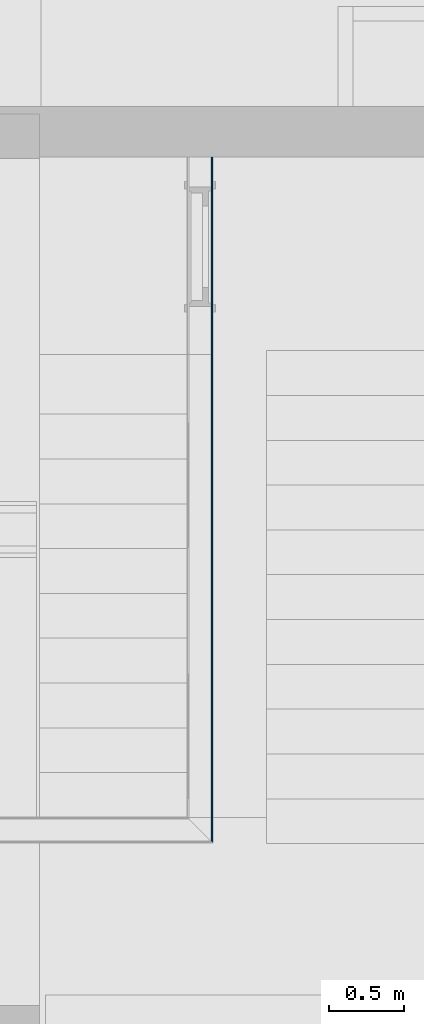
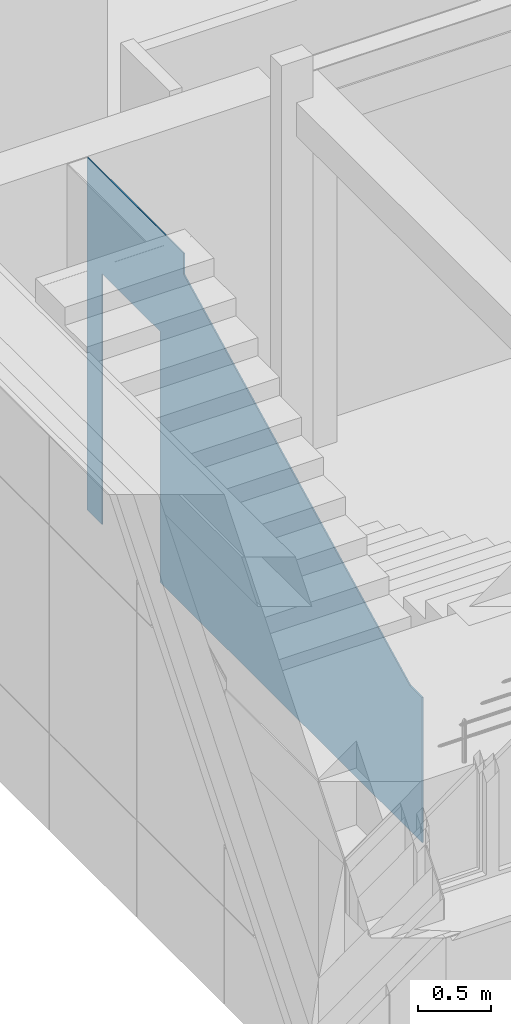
# One storey, part 109 of 418: 1 building element part, 1 opening, 1 element without a shape of its own.
"""IFC2X3 building model written with IfcOpenShell, lengths in millimetres."""

from ifc_helpers import new_model, entity, si_unit, converted_unit, derived_unit, money_unit, direction, frame, origin_with_axes, origin_2d_with_axis, place, context, subcontext, project, spatial, polyline, rectangle, outline, extrude, boolean, faceted_brep, material, type_object, element, aggregate, save


model = new_model("IFC2X3")

# Units and contexts
model_context = context("Model", 3, precision=0.01, world=origin_with_axes(), true_north=direction((0.0, 1.0)))
body_context = subcontext(model_context, "Body", "Model", "MODEL_VIEW")
ifc_project = project(units=[si_unit("LENGTHUNIT", "METRE", prefix="MILLI"), si_unit("AREAUNIT", "SQUARE_METRE"), si_unit("VOLUMEUNIT", "CUBIC_METRE"), converted_unit("PLANEANGLEUNIT", "DEGREE", entity("IfcPlaneAngleMeasure", 0.0174532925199), si_unit("PLANEANGLEUNIT", "RADIAN"), dimensions=[0, 0, 0, 0, 0, 0, 0]), si_unit("SOLIDANGLEUNIT", "STERADIAN"), money_unit("EUR"), converted_unit("TIMEUNIT", "Year", entity("IfcTimeMeasure", 31556926.0), si_unit("TIMEUNIT", "SECOND"), dimensions=[0, 0, 1, 0, 0, 0, 0]), si_unit("MASSUNIT", "GRAM", prefix="KILO"), si_unit("THERMODYNAMICTEMPERATUREUNIT", "DEGREE_CELSIUS"), si_unit("LUMINOUSINTENSITYUNIT", "LUMEN"), si_unit("ENERGYUNIT", "JOULE", prefix="MEGA"), derived_unit("THERMALCONDUCTANCEUNIT", [(si_unit("POWERUNIT", "WATT"), 1), (si_unit("LENGTHUNIT", "METRE"), -1), (si_unit("THERMODYNAMICTEMPERATUREUNIT", "KELVIN"), -1)]), derived_unit("SPECIFICHEATCAPACITYUNIT", [(si_unit("ENERGYUNIT", "JOULE"), 1), (si_unit("MASSUNIT", "GRAM", prefix="KILO"), -1), (si_unit("THERMODYNAMICTEMPERATUREUNIT", "KELVIN"), -1)]), derived_unit("MASSDENSITYUNIT", [(si_unit("MASSUNIT", "GRAM", prefix="KILO"), 1), (si_unit("VOLUMEUNIT", "CUBIC_METRE"), -1)])], contexts=[model_context])

# Site, building, storey
site_placement = place(None, origin_with_axes())
site = spatial("IfcSite", under=ifc_project, at=site_placement, Name="Paldiski mnt 245/1, Tallinn, Harjumaa", CompositionType="COMPLEX")
building_placement = place(site_placement, origin_with_axes())
building = spatial("IfcBuilding", under=site, at=building_placement, Name="RKAS Hoone üldnimetus (kasutust iseloomustav) -> IFC Project Manager -> SOLIBRI", CompositionType="ELEMENT")
storey_placement = place(building_placement, origin_with_axes())
storey = spatial("IfcBuildingStorey", under=building, at=storey_placement, Name="Esimene korrus", CompositionType="ELEMENT", Elevation=0.0)

# Wall, opening, building element part
wall_type = type_object("IfcWallType", Name="SS-04 170", PredefinedType="NOTDEFINED")
wall_placement = place(storey_placement, frame((-46130.0, -6130.08408706, 0.0), z_axis=(0.0, 0.0, 1.0), x_axis=(0.0, -1.0, 0.0)))
wall = element("IfcWall", 1, at=wall_placement, inside=storey, type_object=wall_type, Name="SS-04")
opening_placement = place(wall_placement, frame((940.0, 0.0, 0.0), z_axis=(0.0, 0.0, 1.0), x_axis=(1.0, 0.0, 0.0)))
element("IfcOpeningElement", 2, at=opening_placement, cuts=wall, Name="TSU-08v", context=body_context, shape_type="SweptSolid", body=[
    extrude(rectangle(XDim=800.0, YDim=2100.0, at=origin_2d_with_axis()), frame((0.0, -145.0, 1050.0), z_axis=(0.0, 1.0, 0.0), x_axis=(-1.0, 0.0, 0.0)), (0.0, 0.0, 1.0), 315.0),
    extrude(rectangle(XDim=800.0, YDim=2100.0, at=origin_2d_with_axis()), frame((0.0, -145.0, 1050.0), z_axis=(0.0, -1.0, 0.0), x_axis=(-1.0, 0.0, 0.0)), (0.0, 0.0, 1.0), 195.0),
    extrude(rectangle(XDim=874.0, YDim=2137.0, at=origin_2d_with_axis()), frame((0.0, 0.0, 1068.5), z_axis=(0.0, 1.0, 0.0), x_axis=(-1.0, 0.0, 0.0)), (0.0, 0.0, 1.0), 195.0),
    extrude(rectangle(XDim=874.0, YDim=2137.0, at=origin_2d_with_axis()), frame((0.0, -170.0, 1068.5), z_axis=(0.0, -1.0, 0.0), x_axis=(-1.0, 0.0, 0.0)), (0.0, 0.0, 1.0), 195.0),
])
ifc_material = material(Name="Krohv")
building_element_part_placement = place(wall_placement, origin_with_axes())
building_element_part = element("IfcBuildingElementPart", 3, at=building_element_part_placement, material=ifc_material, Name="Krohv", context=body_context, shape_type="CSG", body=[
    boolean("DIFFERENCE", boolean("DIFFERENCE", boolean("DIFFERENCE", boolean("DIFFERENCE", boolean("DIFFERENCE", boolean("DIFFERENCE", extrude(outline(polyline([(0.0, -10.0), (4930.41676623, -10.0), (4930.41676623, 0.0), (0.0, 0.0), (0.0, -10.0)])), origin_with_axes(), (0.0, 0.0, 1.0), 2950.0), faceted_brep([(1835.41676623, 0.0, 2685.9945005), (1660.416771, 0.0, 2774.02480113), (1660.416771, 0.0, 2950.0), (4930.41676623, 0.0, 2950.0), (4930.41676623, -8.31200708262e-06, 1214.63086414), (4760.41676623, 0.0, 1214.63086414), (4685.41676623, 0.0, 1252.35813686), (4660.41676623, 0.0, 1264.93389444), (4610.41676623, 0.0, 1290.08540959), (4560.41676623, 0.0, 1315.23692474), (4535.41676623, 0.0, 1327.81268232), (4460.41676623, 0.0, 1365.53995505), (4385.41676623, 0.0, 1403.26722777), (4360.41676623, 0.0, 1415.84298535), (4310.41676623, 0.0, 1440.9945005), (4260.41676623, 0.0, 1466.14601565), (4235.41676623, 0.0, 1478.72177323), (4160.41676623, 0.0, 1516.44904596), (4060.41676623, 0.0, 1566.75207626), (3960.41676623, 0.0, 1617.05510656), (3860.41676623, 0.0, 1667.35813686), (3785.41676623, 0.0, 1705.08540959), (3710.41676623, 0.0, 1742.81268232), (3635.41676623, 0.0, 1780.53995505), (3560.41676623, 0.0, 1818.26722777), (3485.41676623, 0.0, 1855.9945005), (3460.41676623, 0.0, 1868.57025808), (3410.41676623, 0.0, 1893.72177323), (3360.41676623, 0.0, 1918.87328838), (3335.41676623, 0.0, 1931.44904596), (3260.41676623, 0.0, 1969.17631868), (3160.41676623, 0.0, 2019.47934899), (3060.41676623, 0.0, 2069.78237929), (2960.41676623, 0.0, 2120.08540959), (2885.41676623, 0.0, 2157.81268232), (2810.41676623, 0.0, 2195.53995505), (2735.41676623, 0.0, 2233.26722777), (2660.41676623, 0.0, 2270.9945005), (2585.41676623, 0.0, 2308.72177323), (2560.41676623, 0.0, 2321.2975308), (2510.41676623, 0.0, 2346.44904596), (2460.41676623, 0.0, 2371.60056111), (2435.41676623, 0.0, 2384.17631868), (2360.41676623, 0.0, 2421.90359141), (2260.41676623, 0.0, 2472.20662171), (2160.41676623, 0.0, 2522.50965202), (2060.41676623, 0.0, 2572.81268232), (1985.41676623, 0.0, 2610.53995505), (1910.41676623, 0.0, 2648.26722777), (1835.41676623, -10.0, 2685.9945005), (1660.416771, -10.0, 2774.02480113), (1660.416771, -10.00000327, 2950.0), (4930.41676623, -10.0, 2950.0), (4930.41676359, -10.0000038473, 1214.63086414), (4760.41676623, -10.0000093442, 1214.63086414), (4685.41676623, -10.0, 1252.35813686), (4660.41676623, -10.0, 1264.93389444), (4610.41676623, -10.0, 1290.08540959), (4560.41676623, -10.0, 1315.23692474), (4535.41676623, -10.0, 1327.81268232), (4460.41676623, -10.0, 1365.53995505), (4385.41676623, -10.0, 1403.26722777), (4360.41676623, -10.0, 1415.84298535), (4310.41676623, -10.0, 1440.9945005), (4260.41676623, -10.0, 1466.14601565), (4235.41676623, -10.0, 1478.72177323), (4160.41676623, -10.0, 1516.44904596), (4060.41676623, -10.0, 1566.75207626), (3960.41676623, -10.0, 1617.05510656), (3860.41676623, -10.0, 1667.35813686), (3785.41676623, -10.0, 1705.08540959), (3710.41676623, -10.0, 1742.81268232), (3635.41676623, -10.0, 1780.53995505), (3560.41676623, -10.0, 1818.26722777), (3485.41676623, -10.0, 1855.9945005), (3460.41676623, -10.0, 1868.57025808), (3410.41676623, -10.0, 1893.72177323), (3360.41676623, -10.0, 1918.87328838), (3335.41676623, -10.0, 1931.44904596), (3260.41676623, -10.0, 1969.17631868), (3160.41676623, -10.0, 2019.47934899), (3060.41676623, -10.0, 2069.78237929), (2960.41676623, -10.0, 2120.08540959), (2885.41676623, -10.0, 2157.81268232), (2810.41676623, -10.0, 2195.53995505), (2735.41676623, -10.0, 2233.26722777), (2660.41676623, -10.0, 2270.9945005), (2585.41676623, -10.0, 2308.72177323), (2560.41676623, -10.0, 2321.2975308), (2510.41676623, -10.0, 2346.44904596), (2460.41676623, -10.0, 2371.60056111), (2435.41676623, -10.0, 2384.17631868), (2360.41676623, -10.0, 2421.90359141), (2260.41676623, -10.0, 2472.20662171), (2160.41676623, -10.0, 2522.50965202), (2060.41676623, -10.0, 2572.81268232), (1985.41676623, -10.0, 2610.53995505), (1910.41676623, -10.0, 2648.26722777)], [[[0, 1, 2, 3, 4, 5, 6, 7, 8, 9, 10, 11, 12, 13, 14, 15, 16, 17, 18, 19, 20, 21, 22, 23, 24, 25, 26, 27, 28, 29, 30, 31, 32, 33, 34, 35, 36, 37, 38, 39, 40, 41, 42, 43, 44, 45, 46, 47, 48]], [[1, 0, 49, 50]], [[51, 2, 1, 50]], [[2, 51, 52, 3]], [[53, 4, 3, 52]], [[5, 4, 53, 54]], [[6, 5, 54, 55]], [[7, 6, 55, 56]], [[8, 7, 56, 57]], [[9, 8, 57, 58]], [[10, 9, 58, 59]], [[11, 10, 59, 60]], [[12, 11, 60, 61]], [[13, 12, 61, 62]], [[14, 13, 62, 63]], [[15, 14, 63, 64]], [[16, 15, 64, 65]], [[17, 16, 65, 66]], [[18, 17, 66, 67]], [[19, 18, 67, 68]], [[20, 19, 68, 69]], [[21, 20, 69, 70]], [[22, 21, 70, 71]], [[23, 22, 71, 72]], [[24, 23, 72, 73]], [[25, 24, 73, 74]], [[26, 25, 74, 75]], [[27, 26, 75, 76]], [[28, 27, 76, 77]], [[29, 28, 77, 78]], [[30, 29, 78, 79]], [[31, 30, 79, 80]], [[32, 31, 80, 81]], [[33, 32, 81, 82]], [[34, 33, 82, 83]], [[35, 34, 83, 84]], [[36, 35, 84, 85]], [[37, 36, 85, 86]], [[38, 37, 86, 87]], [[39, 38, 87, 88]], [[40, 39, 88, 89]], [[41, 40, 89, 90]], [[42, 41, 90, 91]], [[43, 42, 91, 92]], [[44, 43, 92, 93]], [[45, 44, 93, 94]], [[46, 45, 94, 95]], [[47, 46, 95, 96]], [[48, 47, 96, 97]], [[0, 48, 97, 49]], [[53, 52, 51, 50, 49, 97, 96, 95, 94, 93, 92, 91, 90, 89, 88, 87, 86, 85, 84, 83, 82, 81, 80, 79, 78, 77, 76, 75, 74, 73, 72, 71, 70, 69, 68, 67, 66, 65, 64, 63, 62, 61, 60, 59, 58, 57, 56, 55, 54]]])), faceted_brep([(340.0, -10.0000008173, 2950.0), (340.0, -7.27034432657e-07, 2950.0), (0.0, 0.0, 2950.0), (0.0, -10.0, 2950.0), (340.0, 0.0, 0.0), (340.0, -9.99999999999, 0.0), (0.0, 0.0, 0.0), (0.0, -10.0, 0.0)], [[[0, 1, 2, 3]], [[4, 1, 0, 5]], [[1, 4, 6, 2]], [[2, 6, 7, 3]], [[5, 0, 3, 7]], [[4, 5, 7, 6]]])), faceted_brep([(1835.41676623, -10.0, 2685.9945005), (1660.416771, -10.0, 2774.02480113), (1660.416771, -10.00000327, 2950.0), (4930.41676623, -10.0, 2950.0), (4930.41676623, -10.0, 0.0), (4920.41676623, -9.99999999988, 0.0), (4920.41676623, -10.0000093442, 1214.63086414), (4760.41676623, -10.0000093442, 1214.63086414), (4685.41676623, -10.0, 1252.35813686), (4660.41676623, -10.0, 1264.93389444), (4610.41676623, -10.0, 1290.08540959), (4560.41676623, -10.0, 1315.23692474), (4535.41676623, -10.0, 1327.81268232), (4460.41676623, -10.0, 1365.53995505), (4385.41676623, -10.0, 1403.26722777), (4360.41676623, -10.0, 1415.84298535), (4310.41676623, -10.0, 1440.9945005), (4260.41676623, -10.0, 1466.14601565), (4235.41676623, -10.0, 1478.72177323), (4160.41676623, -10.0, 1516.44904596), (4060.41676623, -10.0, 1566.75207626), (3960.41676623, -10.0, 1617.05510656), (3860.41676623, -10.0, 1667.35813686), (3785.41676623, -10.0, 1705.08540959), (3710.41676623, -10.0, 1742.81268232), (3635.41676623, -10.0, 1780.53995505), (3560.41676623, -10.0, 1818.26722777), (3485.41676623, -10.0, 1855.9945005), (3460.41676623, -10.0, 1868.57025808), (3410.41676623, -10.0, 1893.72177323), (3360.41676623, -10.0, 1918.87328838), (3335.41676623, -10.0, 1931.44904596), (3260.41676623, -10.0, 1969.17631868), (3160.41676623, -10.0, 2019.47934899), (3060.41676623, -10.0, 2069.78237929), (2960.41676623, -10.0, 2120.08540959), (2885.41676623, -10.0, 2157.81268232), (2810.41676623, -10.0, 2195.53995505), (2735.41676623, -10.0, 2233.26722777), (2660.41676623, -10.0, 2270.9945005), (2585.41676623, -10.0, 2308.72177323), (2560.41676623, -10.0, 2321.2975308), (2510.41676623, -10.0, 2346.44904596), (2460.41676623, -10.0, 2371.60056111), (2435.41676623, -10.0, 2384.17631868), (2360.41676623, -10.0, 2421.90359141), (2260.41676623, -10.0, 2472.20662171), (2160.41676623, -10.0, 2522.50965202), (2060.41676623, -10.0, 2572.81268232), (1985.41676623, -10.0, 2610.53995505), (1910.41676623, -10.0, 2648.26722777), (1835.41676623, -160.0, 2685.9945005), (1660.416771, -160.0, 2774.02480113), (1660.416771, -159.999999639, 2950.0), (4930.41676623, -160.0, 2950.0), (4930.41676623, -160.0, 0.0), (4920.41676623, -160.0, 0.0), (4920.41676623, -159.999998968, 1214.63086414), (4760.41676623, -159.999998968, 1214.63086414), (4685.41676623, -160.0, 1252.35813686), (4660.41676623, -160.0, 1264.93389444), (4610.41676623, -160.0, 1290.08540959), (4560.41676623, -160.0, 1315.23692474), (4535.41676623, -160.0, 1327.81268232), (4460.41676623, -160.0, 1365.53995505), (4385.41676623, -160.0, 1403.26722777), (4360.41676623, -160.0, 1415.84298535), (4310.41676623, -160.0, 1440.9945005), (4260.41676623, -160.0, 1466.14601565), (4235.41676623, -160.0, 1478.72177323), (4160.41676623, -160.0, 1516.44904596), (4060.41676623, -160.0, 1566.75207626), (3960.41676623, -160.0, 1617.05510656), (3860.41676623, -160.0, 1667.35813686), (3785.41676623, -160.0, 1705.08540959), (3710.41676623, -160.0, 1742.81268232), (3635.41676623, -160.0, 1780.53995505), (3560.41676623, -160.0, 1818.26722777), (3485.41676623, -160.0, 1855.9945005), (3460.41676623, -160.0, 1868.57025808), (3410.41676623, -160.0, 1893.72177323), (3360.41676623, -160.0, 1918.87328838), (3335.41676623, -160.0, 1931.44904596), (3260.41676623, -160.0, 1969.17631868), (3160.41676623, -160.0, 2019.47934899), (3060.41676623, -160.0, 2069.78237929), (2960.41676623, -160.0, 2120.08540959), (2885.41676623, -160.0, 2157.81268232), (2810.41676623, -160.0, 2195.53995505), (2735.41676623, -160.0, 2233.26722777), (2660.41676623, -160.0, 2270.9945005), (2585.41676623, -160.0, 2308.72177323), (2560.41676623, -160.0, 2321.2975308), (2510.41676623, -160.0, 2346.44904596), (2460.41676623, -160.0, 2371.60056111), (2435.41676623, -160.0, 2384.17631868), (2360.41676623, -160.0, 2421.90359141), (2260.41676623, -160.0, 2472.20662171), (2160.41676623, -160.0, 2522.50965202), (2060.41676623, -160.0, 2572.81268232), (1985.41676623, -160.0, 2610.53995505), (1910.41676623, -160.0, 2648.26722777)], [[[0, 1, 2, 3, 4, 5, 6, 7, 8, 9, 10, 11, 12, 13, 14, 15, 16, 17, 18, 19, 20, 21, 22, 23, 24, 25, 26, 27, 28, 29, 30, 31, 32, 33, 34, 35, 36, 37, 38, 39, 40, 41, 42, 43, 44, 45, 46, 47, 48, 49, 50]], [[1, 0, 51, 52]], [[53, 2, 1, 52]], [[2, 53, 54, 3]], [[54, 55, 4, 3]], [[56, 5, 4, 55]], [[6, 5, 56, 57]], [[57, 58, 7, 6]], [[8, 7, 58, 59]], [[9, 8, 59, 60]], [[10, 9, 60, 61]], [[11, 10, 61, 62]], [[12, 11, 62, 63]], [[13, 12, 63, 64]], [[14, 13, 64, 65]], [[15, 14, 65, 66]], [[16, 15, 66, 67]], [[17, 16, 67, 68]], [[18, 17, 68, 69]], [[19, 18, 69, 70]], [[20, 19, 70, 71]], [[21, 20, 71, 72]], [[22, 21, 72, 73]], [[23, 22, 73, 74]], [[24, 23, 74, 75]], [[25, 24, 75, 76]], [[26, 25, 76, 77]], [[27, 26, 77, 78]], [[28, 27, 78, 79]], [[29, 28, 79, 80]], [[30, 29, 80, 81]], [[31, 30, 81, 82]], [[32, 31, 82, 83]], [[33, 32, 83, 84]], [[34, 33, 84, 85]], [[35, 34, 85, 86]], [[36, 35, 86, 87]], [[37, 36, 87, 88]], [[38, 37, 88, 89]], [[39, 38, 89, 90]], [[40, 39, 90, 91]], [[41, 40, 91, 92]], [[42, 41, 92, 93]], [[43, 42, 93, 94]], [[44, 43, 94, 95]], [[45, 44, 95, 96]], [[46, 45, 96, 97]], [[47, 46, 97, 98]], [[48, 47, 98, 99]], [[49, 48, 99, 100]], [[50, 49, 100, 101]], [[0, 50, 101, 51]], [[57, 56, 55, 54, 53, 52, 51, 101, 100, 99, 98, 97, 96, 95, 94, 93, 92, 91, 90, 89, 88, 87, 86, 85, 84, 83, 82, 81, 80, 79, 78, 77, 76, 75, 74, 73, 72, 71, 70, 69, 68, 67, 66, 65, 64, 63, 62, 61, 60, 59, 58]]])), faceted_brep([(340.0, -159.99999991, 2950.0), (340.0, -10.0000008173, 2950.0), (0.0, -10.0, 2950.0), (0.0, -160.0, 2950.0), (340.0, -160.0, 0.0), (340.0, -9.99999999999, 0.0), (0.0, -10.0, 0.0), (0.0, -160.0, 0.0)], [[[0, 1, 2, 3]], [[1, 0, 4, 5]], [[1, 5, 6, 2]], [[2, 6, 7, 3]], [[4, 0, 3, 7]], [[5, 4, 7, 6]]])), faceted_brep([(1835.41676623, -160.0, 2685.9945005), (1660.416771, -160.0, 2774.02480113), (1660.416771, -159.999999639, 2950.0), (4930.41676623, -160.0, 2950.0), (4930.41676623, -160.0, 0.0), (4770.41676623, -160.0, 0.0), (4770.41676623, -159.999998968, 1214.63086414), (4760.41676623, -159.999998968, 1214.63086414), (4685.41676623, -160.0, 1252.35813686), (4660.41676623, -160.0, 1264.93389444), (4610.41676623, -160.0, 1290.08540959), (4560.41676623, -160.0, 1315.23692474), (4535.41676623, -160.0, 1327.81268232), (4460.41676623, -160.0, 1365.53995505), (4385.41676623, -160.0, 1403.26722777), (4360.41676623, -160.0, 1415.84298535), (4310.41676623, -160.0, 1440.9945005), (4260.41676623, -160.0, 1466.14601565), (4235.41676623, -160.0, 1478.72177323), (4160.41676623, -160.0, 1516.44904596), (4060.41676623, -160.0, 1566.75207626), (3960.41676623, -160.0, 1617.05510656), (3860.41676623, -160.0, 1667.35813686), (3785.41676623, -160.0, 1705.08540959), (3710.41676623, -160.0, 1742.81268232), (3635.41676623, -160.0, 1780.53995505), (3560.41676623, -160.0, 1818.26722777), (3485.41676623, -160.0, 1855.9945005), (3460.41676623, -160.0, 1868.57025808), (3410.41676623, -160.0, 1893.72177323), (3360.41676623, -160.0, 1918.87328838), (3335.41676623, -160.0, 1931.44904596), (3260.41676623, -160.0, 1969.17631868), (3160.41676623, -160.0, 2019.47934899), (3060.41676623, -160.0, 2069.78237929), (2960.41676623, -160.0, 2120.08540959), (2885.41676623, -160.0, 2157.81268232), (2810.41676623, -160.0, 2195.53995505), (2735.41676623, -160.0, 2233.26722777), (2660.41676623, -160.0, 2270.9945005), (2585.41676623, -160.0, 2308.72177323), (2560.41676623, -160.0, 2321.2975308), (2510.41676623, -160.0, 2346.44904596), (2460.41676623, -160.0, 2371.60056111), (2435.41676623, -160.0, 2384.17631868), (2360.41676623, -160.0, 2421.90359141), (2260.41676623, -160.0, 2472.20662171), (2160.41676623, -160.0, 2522.50965202), (2060.41676623, -160.0, 2572.81268232), (1985.41676623, -160.0, 2610.53995505), (1910.41676623, -160.0, 2648.26722777), (1835.41676623, -170.0, 2685.9945005), (1660.416771, -170.0, 2774.02480113), (1660.416771, -170.0, 2950.0), (4930.41676623, -170.0, 2950.0), (4930.41676623, -170.0, 0.0), (4770.41676623, -170.0, 0.0), (4770.41676623, -170.0, 1214.63086414), (4760.41676623, -170.0, 1214.63086414), (4685.41676623, -170.0, 1252.35813686), (4660.41676623, -170.0, 1264.93389444), (4610.41676623, -170.0, 1290.08540959), (4560.41676623, -170.0, 1315.23692474), (4535.41676623, -170.0, 1327.81268232), (4460.41676623, -170.0, 1365.53995505), (4385.41676623, -170.0, 1403.26722777), (4360.41676623, -170.0, 1415.84298535), (4310.41676623, -170.0, 1440.9945005), (4260.41676623, -170.0, 1466.14601565), (4235.41676623, -170.0, 1478.72177323), (4160.41676623, -170.0, 1516.44904596), (4060.41676623, -170.0, 1566.75207626), (3960.41676623, -170.0, 1617.05510656), (3860.41676623, -170.0, 1667.35813686), (3785.41676623, -170.0, 1705.08540959), (3710.41676623, -170.0, 1742.81268232), (3635.41676623, -170.0, 1780.53995505), (3560.41676623, -170.0, 1818.26722777), (3485.41676623, -170.0, 1855.9945005), (3460.41676623, -170.0, 1868.57025808), (3410.41676623, -170.0, 1893.72177323), (3360.41676623, -170.0, 1918.87328838), (3335.41676623, -170.0, 1931.44904596), (3260.41676623, -170.0, 1969.17631868), (3160.41676623, -170.0, 2019.47934899), (3060.41676623, -170.0, 2069.78237929), (2960.41676623, -170.0, 2120.08540959), (2885.41676623, -170.0, 2157.81268232), (2810.41676623, -170.0, 2195.53995505), (2735.41676623, -170.0, 2233.26722777), (2660.41676623, -170.0, 2270.9945005), (2585.41676623, -170.0, 2308.72177323), (2560.41676623, -170.0, 2321.2975308), (2510.41676623, -170.0, 2346.44904596), (2460.41676623, -170.0, 2371.60056111), (2435.41676623, -170.0, 2384.17631868), (2360.41676623, -170.0, 2421.90359141), (2260.41676623, -170.0, 2472.20662171), (2160.41676623, -170.0, 2522.50965202), (2060.41676623, -170.0, 2572.81268232), (1985.41676623, -170.0, 2610.53995505), (1910.41676623, -170.0, 2648.26722777)], [[[0, 1, 2, 3, 4, 5, 6, 7, 8, 9, 10, 11, 12, 13, 14, 15, 16, 17, 18, 19, 20, 21, 22, 23, 24, 25, 26, 27, 28, 29, 30, 31, 32, 33, 34, 35, 36, 37, 38, 39, 40, 41, 42, 43, 44, 45, 46, 47, 48, 49, 50]], [[1, 0, 51, 52]], [[53, 2, 1, 52]], [[2, 53, 54, 3]], [[54, 55, 4, 3]], [[56, 5, 4, 55]], [[6, 5, 56, 57]], [[57, 58, 7, 6]], [[8, 7, 58, 59]], [[9, 8, 59, 60]], [[10, 9, 60, 61]], [[11, 10, 61, 62]], [[12, 11, 62, 63]], [[13, 12, 63, 64]], [[14, 13, 64, 65]], [[15, 14, 65, 66]], [[16, 15, 66, 67]], [[17, 16, 67, 68]], [[18, 17, 68, 69]], [[19, 18, 69, 70]], [[20, 19, 70, 71]], [[21, 20, 71, 72]], [[22, 21, 72, 73]], [[23, 22, 73, 74]], [[24, 23, 74, 75]], [[25, 24, 75, 76]], [[26, 25, 76, 77]], [[27, 26, 77, 78]], [[28, 27, 78, 79]], [[29, 28, 79, 80]], [[30, 29, 80, 81]], [[31, 30, 81, 82]], [[32, 31, 82, 83]], [[33, 32, 83, 84]], [[34, 33, 84, 85]], [[35, 34, 85, 86]], [[36, 35, 86, 87]], [[37, 36, 87, 88]], [[38, 37, 88, 89]], [[39, 38, 89, 90]], [[40, 39, 90, 91]], [[41, 40, 91, 92]], [[42, 41, 92, 93]], [[43, 42, 93, 94]], [[44, 43, 94, 95]], [[45, 44, 95, 96]], [[46, 45, 96, 97]], [[47, 46, 97, 98]], [[48, 47, 98, 99]], [[49, 48, 99, 100]], [[50, 49, 100, 101]], [[0, 50, 101, 51]], [[57, 56, 55, 54, 53, 52, 51, 101, 100, 99, 98, 97, 96, 95, 94, 93, 92, 91, 90, 89, 88, 87, 86, 85, 84, 83, 82, 81, 80, 79, 78, 77, 76, 75, 74, 73, 72, 71, 70, 69, 68, 67, 66, 65, 64, 63, 62, 61, 60, 59, 58]]])), faceted_brep([(340.0, -170.0, 2950.0), (340.0, -159.99999991, 2950.0), (0.0, -160.0, 2950.0), (0.0, -170.0, 2950.0), (340.0, -170.0, 0.0), (340.0, -160.0, 0.0), (0.0, -160.0, 0.0), (0.0, -170.0, 0.0)], [[[0, 1, 2, 3]], [[1, 0, 4, 5]], [[1, 5, 6, 2]], [[2, 6, 7, 3]], [[4, 0, 3, 7]], [[5, 4, 7, 6]]])),
])
aggregate(wall, [building_element_part])

save(model, "model.ifc")
